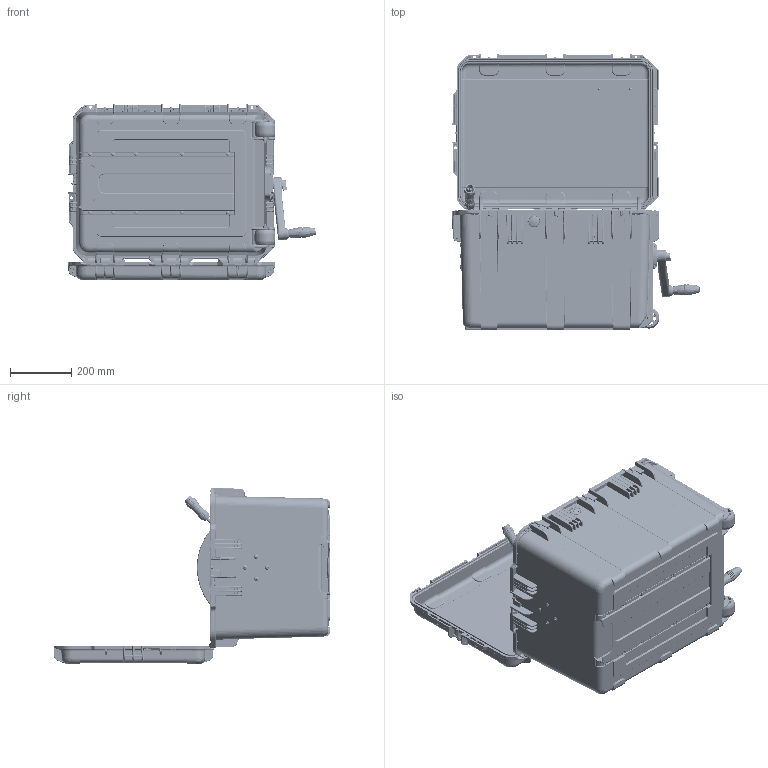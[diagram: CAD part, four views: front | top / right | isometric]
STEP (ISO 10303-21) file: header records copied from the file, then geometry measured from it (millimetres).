
FILE_DESCRIPTION (( 'STEP AP214' ), '1' );
FILE_NAME ('01-0453 Website.STEP', '2025-09-03T14:45:48', ( '' ), ( '' ), 'SwSTEP 2.0', 'SolidWorks 2022', '' );
FILE_SCHEMA (( 'AUTOMOTIVE_DESIGN' ));
Length unit declared in the file: inch
Products named in the file (1): 01-0453 Website
Bounding box: 806.44 x 901.35 x 574.12 mm (x, y, z)
Surface area: 5033730.6 mm2 (no closed solid volume)
Topology: 0 solids, 145 shells, 14888 faces, 37317 edges, 22722 vertices
Faces by surface type: cylinder 4970, plane 4841, bspline 3180, cone 910, torus 574, sphere 413
Full cylindrical faces by diameter (mm): 1 x4, 1.6 x4, 1.753 x4, 2.032 x3, 2.159 x4, 2.286 x3, 2.5 x3, 2.515 x3, 2.692 x8, 2.705 x4, 3.048 x2, 3.05 x8, 3.175 x3, 3.2 x8, 3.429 x4, 3.505 x4, 3.563 x6, 3.683 x6, 3.8 x1, 3.81 x4, 3.831 x3, 4.064 x6, 4.1 x9, 4.166 x6, 4.25 x8, 4.496 x2, 4.826 x12, 5.105 x16, 5.75 x1, 6.05 x1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
Entity records: 851164 total; most frequent: CARTESIAN_POINT 336649, ORIENTED_EDGE 71900, DIRECTION 58854, EDGE_CURVE 36237, VERTEX_POINT 22502, AXIS2_PLACEMENT_3D 21631, EDGE_LOOP 16261, LINE 15592
